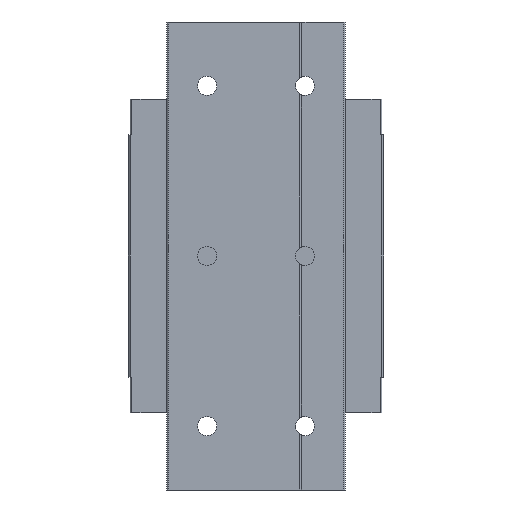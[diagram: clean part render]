
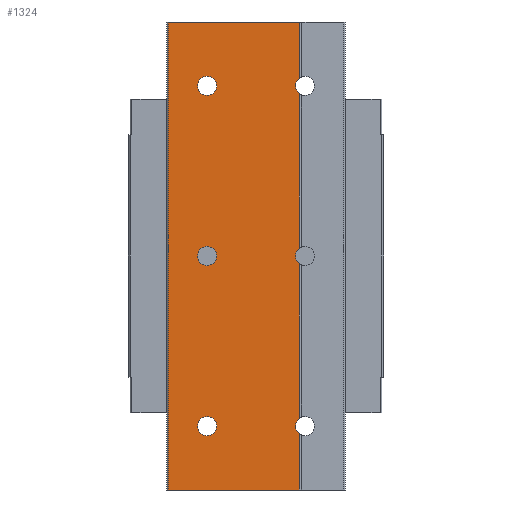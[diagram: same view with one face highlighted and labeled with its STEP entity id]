
A CAD part, front view. The second image highlights one B-rep face of the part: STEP entity #1324.
In plain terms, the highlighted planar face has unit normal (0, -1, 0).
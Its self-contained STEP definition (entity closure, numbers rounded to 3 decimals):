
#6=DIRECTION('',(0.,0.,-1.));
#7=VECTOR('',#6,13.164);
#8=CARTESIAN_POINT('',(10.2,0.,-41.836));
#9=LINE('',#8,#7);
#87=DIRECTION('',(-1.,0.,0.));
#88=VECTOR('',#87,30.8);
#89=CARTESIAN_POINT('',(10.2,0.,-55.));
#90=LINE('',#89,#88);
#358=DIRECTION('',(-1.,0.,0.));
#359=VECTOR('',#358,30.8);
#360=CARTESIAN_POINT('',(10.2,0.,55.));
#361=LINE('',#360,#359);
#362=CARTESIAN_POINT('',(11.5,0.,40.));
#363=DIRECTION('',(0.,1.,0.));
#364=DIRECTION('',(-0.578,0.,-0.816));
#365=AXIS2_PLACEMENT_3D('',#362,#363,#364);
#367=CARTESIAN_POINT('',(11.5,0.,0.));
#368=DIRECTION('',(0.,1.,0.));
#369=DIRECTION('',(-0.578,0.,-0.816));
#370=AXIS2_PLACEMENT_3D('',#367,#368,#369);
#372=CARTESIAN_POINT('',(11.5,0.,-40.));
#373=DIRECTION('',(0.,1.,0.));
#374=DIRECTION('',(-0.578,0.,-0.816));
#375=AXIS2_PLACEMENT_3D('',#372,#373,#374);
#377=CARTESIAN_POINT('',(-11.5,0.,-40.));
#378=DIRECTION('',(0.,1.,0.));
#379=DIRECTION('',(-1.,0.,0.));
#380=AXIS2_PLACEMENT_3D('',#377,#378,#379);
#382=CARTESIAN_POINT('',(-11.5,0.,-40.));
#383=DIRECTION('',(0.,1.,0.));
#384=DIRECTION('',(0.,0.,-1.));
#385=AXIS2_PLACEMENT_3D('',#382,#383,#384);
#387=CARTESIAN_POINT('',(-11.5,0.,-40.));
#388=DIRECTION('',(0.,1.,0.));
#389=DIRECTION('',(1.,0.,0.));
#390=AXIS2_PLACEMENT_3D('',#387,#388,#389);
#392=CARTESIAN_POINT('',(-11.5,0.,-40.));
#393=DIRECTION('',(0.,1.,0.));
#394=DIRECTION('',(0.,0.,1.));
#395=AXIS2_PLACEMENT_3D('',#392,#393,#394);
#397=CARTESIAN_POINT('',(-11.5,0.,0.));
#398=DIRECTION('',(0.,1.,0.));
#399=DIRECTION('',(-1.,0.,0.));
#400=AXIS2_PLACEMENT_3D('',#397,#398,#399);
#402=CARTESIAN_POINT('',(-11.5,0.,0.));
#403=DIRECTION('',(0.,1.,0.));
#404=DIRECTION('',(0.,0.,-1.));
#405=AXIS2_PLACEMENT_3D('',#402,#403,#404);
#407=CARTESIAN_POINT('',(-11.5,0.,0.));
#408=DIRECTION('',(0.,1.,0.));
#409=DIRECTION('',(1.,0.,0.));
#410=AXIS2_PLACEMENT_3D('',#407,#408,#409);
#412=CARTESIAN_POINT('',(-11.5,0.,0.));
#413=DIRECTION('',(0.,1.,0.));
#414=DIRECTION('',(0.,0.,1.));
#415=AXIS2_PLACEMENT_3D('',#412,#413,#414);
#417=CARTESIAN_POINT('',(-11.5,0.,40.));
#418=DIRECTION('',(0.,1.,0.));
#419=DIRECTION('',(-1.,0.,0.));
#420=AXIS2_PLACEMENT_3D('',#417,#418,#419);
#422=CARTESIAN_POINT('',(-11.5,0.,40.));
#423=DIRECTION('',(0.,1.,0.));
#424=DIRECTION('',(0.,0.,-1.));
#425=AXIS2_PLACEMENT_3D('',#422,#423,#424);
#427=CARTESIAN_POINT('',(-11.5,0.,40.));
#428=DIRECTION('',(0.,1.,0.));
#429=DIRECTION('',(1.,0.,0.));
#430=AXIS2_PLACEMENT_3D('',#427,#428,#429);
#432=CARTESIAN_POINT('',(-11.5,0.,40.));
#433=DIRECTION('',(0.,1.,0.));
#434=DIRECTION('',(0.,0.,1.));
#435=AXIS2_PLACEMENT_3D('',#432,#433,#434);
#437=DIRECTION('',(0.,0.,-1.));
#438=VECTOR('',#437,13.164);
#439=CARTESIAN_POINT('',(10.2,0.,55.));
#440=LINE('',#439,#438);
#503=DIRECTION('',(0.,0.,-1.));
#504=VECTOR('',#503,36.327);
#505=CARTESIAN_POINT('',(10.2,0.,38.164));
#506=LINE('',#505,#504);
#569=DIRECTION('',(0.,0.,-1.));
#570=VECTOR('',#569,36.327);
#571=CARTESIAN_POINT('',(10.2,0.,-1.836));
#572=LINE('',#571,#570);
#577=DIRECTION('',(0.,0.,1.));
#578=VECTOR('',#577,110.);
#579=CARTESIAN_POINT('',(-20.6,0.,-55.));
#580=LINE('',#579,#578);
#701=CARTESIAN_POINT('',(10.2,0.,-41.836));
#702=CARTESIAN_POINT('',(10.2,0.,-55.));
#703=VERTEX_POINT('',#701);
#704=VERTEX_POINT('',#702);
#705=CARTESIAN_POINT('',(10.2,0.,-1.836));
#706=CARTESIAN_POINT('',(10.2,0.,-38.164));
#707=VERTEX_POINT('',#705);
#708=VERTEX_POINT('',#706);
#713=CARTESIAN_POINT('',(10.2,0.,38.164));
#714=CARTESIAN_POINT('',(10.2,0.,1.836));
#715=VERTEX_POINT('',#713);
#716=VERTEX_POINT('',#714);
#721=CARTESIAN_POINT('',(10.2,0.,55.));
#722=CARTESIAN_POINT('',(-20.6,0.,55.));
#723=VERTEX_POINT('',#721);
#724=VERTEX_POINT('',#722);
#725=CARTESIAN_POINT('',(-20.6,0.,-55.));
#726=VERTEX_POINT('',#725);
#727=CARTESIAN_POINT('',(10.2,0.,41.836));
#728=VERTEX_POINT('',#727);
#786=CARTESIAN_POINT('',(-11.5,0.,42.25));
#788=VERTEX_POINT('',#786);
#790=CARTESIAN_POINT('',(-11.5,0.,37.75));
#792=VERTEX_POINT('',#790);
#793=CARTESIAN_POINT('',(-9.25,0.,40.));
#794=VERTEX_POINT('',#793);
#795=CARTESIAN_POINT('',(-13.75,0.,40.));
#796=VERTEX_POINT('',#795);
#806=CARTESIAN_POINT('',(-11.5,0.,2.25));
#808=VERTEX_POINT('',#806);
#810=CARTESIAN_POINT('',(-11.5,0.,-2.25));
#812=VERTEX_POINT('',#810);
#813=CARTESIAN_POINT('',(-9.25,0.,0.));
#814=VERTEX_POINT('',#813);
#815=CARTESIAN_POINT('',(-13.75,0.,0.));
#816=VERTEX_POINT('',#815);
#826=CARTESIAN_POINT('',(-11.5,0.,-37.75));
#828=VERTEX_POINT('',#826);
#830=CARTESIAN_POINT('',(-11.5,0.,-42.25));
#832=VERTEX_POINT('',#830);
#833=CARTESIAN_POINT('',(-9.25,0.,-40.));
#834=VERTEX_POINT('',#833);
#835=CARTESIAN_POINT('',(-13.75,0.,-40.));
#836=VERTEX_POINT('',#835);
#1271=CARTESIAN_POINT('',(-21.,0.,55.));
#1272=DIRECTION('',(0.,1.,0.));
#1273=DIRECTION('',(-1.,0.,0.));
#1274=AXIS2_PLACEMENT_3D('',#1271,#1272,#1273);
#1275=PLANE('',#1274);
#1276=ORIENTED_EDGE('',*,*,#1056,.F.);
#1278=ORIENTED_EDGE('',*,*,#1277,.T.);
#1280=ORIENTED_EDGE('',*,*,#1279,.F.);
#1282=ORIENTED_EDGE('',*,*,#1281,.T.);
#1284=ORIENTED_EDGE('',*,*,#1283,.F.);
#1286=ORIENTED_EDGE('',*,*,#1285,.T.);
#1287=ORIENTED_EDGE('',*,*,#1262,.F.);
#1288=ORIENTED_EDGE('',*,*,#908,.T.);
#1289=ORIENTED_EDGE('',*,*,#971,.T.);
#1291=ORIENTED_EDGE('',*,*,#1290,.T.);
#1292=EDGE_LOOP('',(#1276,#1278,#1280,#1282,#1284,#1286,#1287,#1288,#1289,
#1291));
#1293=FACE_OUTER_BOUND('',#1292,.F.);
#1295=ORIENTED_EDGE('',*,*,#1294,.F.);
#1297=ORIENTED_EDGE('',*,*,#1296,.F.);
#1299=ORIENTED_EDGE('',*,*,#1298,.F.);
#1301=ORIENTED_EDGE('',*,*,#1300,.F.);
#1302=EDGE_LOOP('',(#1295,#1297,#1299,#1301));
#1303=FACE_BOUND('',#1302,.F.);
#1305=ORIENTED_EDGE('',*,*,#1304,.F.);
#1307=ORIENTED_EDGE('',*,*,#1306,.F.);
#1309=ORIENTED_EDGE('',*,*,#1308,.F.);
#1311=ORIENTED_EDGE('',*,*,#1310,.F.);
#1312=EDGE_LOOP('',(#1305,#1307,#1309,#1311));
#1313=FACE_BOUND('',#1312,.F.);
#1315=ORIENTED_EDGE('',*,*,#1314,.F.);
#1317=ORIENTED_EDGE('',*,*,#1316,.F.);
#1319=ORIENTED_EDGE('',*,*,#1318,.F.);
#1321=ORIENTED_EDGE('',*,*,#1320,.F.);
#1322=EDGE_LOOP('',(#1315,#1317,#1319,#1321));
#1323=FACE_BOUND('',#1322,.F.);
#1324=ADVANCED_FACE('',(#1293,#1303,#1313,#1323),#1275,.F.);
#366=CIRCLE('',#365,2.25);
#371=CIRCLE('',#370,2.25);
#376=CIRCLE('',#375,2.25);
#381=CIRCLE('',#380,2.25);
#386=CIRCLE('',#385,2.25);
#391=CIRCLE('',#390,2.25);
#396=CIRCLE('',#395,2.25);
#401=CIRCLE('',#400,2.25);
#406=CIRCLE('',#405,2.25);
#411=CIRCLE('',#410,2.25);
#416=CIRCLE('',#415,2.25);
#421=CIRCLE('',#420,2.25);
#426=CIRCLE('',#425,2.25);
#431=CIRCLE('',#430,2.25);
#436=CIRCLE('',#435,2.25);
#908=EDGE_CURVE('',#703,#704,#9,.T.);
#971=EDGE_CURVE('',#704,#726,#90,.T.);
#1056=EDGE_CURVE('',#723,#724,#361,.T.);
#1262=EDGE_CURVE('',#703,#708,#376,.T.);
#1277=EDGE_CURVE('',#723,#728,#440,.T.);
#1279=EDGE_CURVE('',#715,#728,#366,.T.);
#1281=EDGE_CURVE('',#715,#716,#506,.T.);
#1283=EDGE_CURVE('',#707,#716,#371,.T.);
#1285=EDGE_CURVE('',#707,#708,#572,.T.);
#1290=EDGE_CURVE('',#726,#724,#580,.T.);
#1294=EDGE_CURVE('',#836,#828,#381,.T.);
#1296=EDGE_CURVE('',#832,#836,#386,.T.);
#1298=EDGE_CURVE('',#834,#832,#391,.T.);
#1300=EDGE_CURVE('',#828,#834,#396,.T.);
#1304=EDGE_CURVE('',#816,#808,#401,.T.);
#1306=EDGE_CURVE('',#812,#816,#406,.T.);
#1308=EDGE_CURVE('',#814,#812,#411,.T.);
#1310=EDGE_CURVE('',#808,#814,#416,.T.);
#1314=EDGE_CURVE('',#796,#788,#421,.T.);
#1316=EDGE_CURVE('',#792,#796,#426,.T.);
#1318=EDGE_CURVE('',#794,#792,#431,.T.);
#1320=EDGE_CURVE('',#788,#794,#436,.T.);
